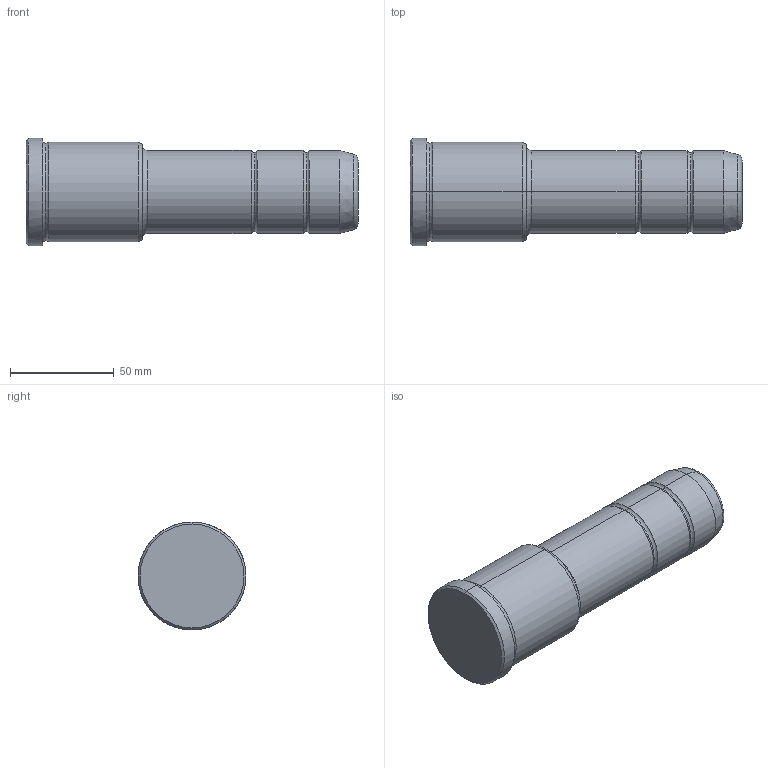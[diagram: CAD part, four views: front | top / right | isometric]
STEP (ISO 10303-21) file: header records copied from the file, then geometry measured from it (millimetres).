
FILE_DESCRIPTION(('CATIA V5 STEP Exchange'),'2;1');
FILE_NAME('C:\Users\Utente\Desktop\IO LAVORO\3D X SITO CF\X SITO\PLASTICA\351\351-40X56X160.stp','2021-10-28T18:32:22+00:00',('none'),('none'),'CATIA Version 5 Release 20 GA (IN-10)','CATIA V5 STEP AP203','none');
FILE_SCHEMA(('CONFIG_CONTROL_DESIGN'));
Length unit declared in the file: millimetre
Products named in the file (1): 351-40X56X160
Bounding box: 160 x 52 x 52 mm (x, y, z)
Volume: 232354.9 mm3; surface area: 25309.5 mm2
Topology: 1 solids, 1 shells, 36 faces, 102 edges, 70 vertices
Faces by surface type: torus 16, cylinder 10, cone 6, plane 4
Entity records: 1292 total; most frequent: CARTESIAN_POINT 321, ORIENTED_EDGE 204, DIRECTION 166, AXIS2_PLACEMENT_3D 115, EDGE_CURVE 102, CIRCLE 78, VERTEX_POINT 70, EDGE_LOOP 38
